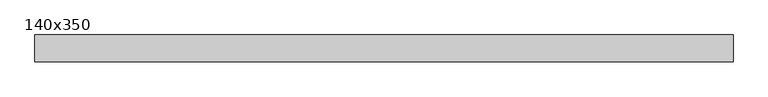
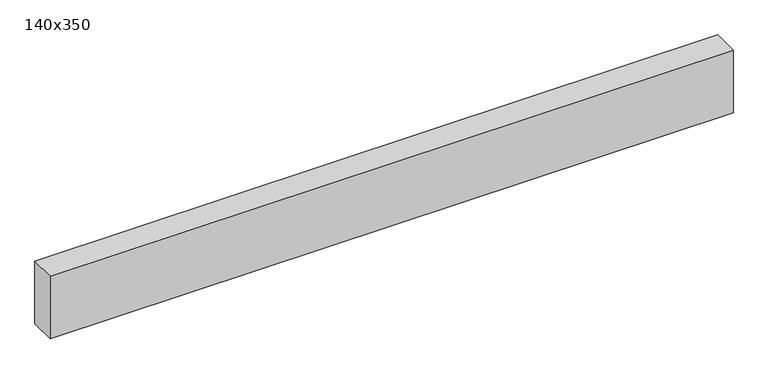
"""IFC4 building model written with IfcOpenShell, lengths in millimetres: beam geometry, Bjelke Limtre Stiplet : 140x350."""

import ifcopenshell
import ifcopenshell.guid

model = None  # the IFC model being written
_history = None  # IfcOwnerHistory: only IFC2X3 demands one
_inside = {}  # id of a spatial element -> (the spatial element, [elements in it])
_under = {}  # id of a project, library or spatial element -> (it, [spatial elements below it])
_declared = {}  # id of a project -> (the project, [libraries it declares])
_typed = {}  # id of a type object -> (the type object, [elements of that type])
_made_of = {}  # id of a material, layer set ... -> (it, [elements and type objects made of it])


def new_model(schema):
    """Start an empty IFC model of exactly this schema.

    Asked for "IFC4X3", IfcOpenShell would pick the latest addendum, in which some entities
    have other attributes; the version numbers below select the first issue.
    IFC2X3 requires an IfcOwnerHistory on every rooted entity: one is made here for all.
    """
    global model, _history
    if schema == "IFC4X3":
        model = ifcopenshell.file(schema_version=(4, 3, 0, 0))
    else:
        model = ifcopenshell.file(schema=schema)
    _inside.clear()
    _under.clear()
    _declared.clear()
    _typed.clear()
    _made_of.clear()
    _history = None
    if model.schema == "IFC2X3":
        org = make("IfcOrganization", Name="unknown")
        user = make(
            "IfcPersonAndOrganization",
            ThePerson=make("IfcPerson", FamilyName="unknown"),
            TheOrganization=org,
        )
        app = make(
            "IfcApplication",
            ApplicationDeveloper=org,
            Version="unknown",
            ApplicationFullName="unknown",
            ApplicationIdentifier="unknown",
        )
        _history = make(
            "IfcOwnerHistory",
            OwningUser=user,
            OwningApplication=app,
            ChangeAction="ADDED",
            CreationDate=0,
        )
    return model


def make(cls, **values):
    """One entity of the class cls with the attributes given. An attribute that is None is left unset."""
    return model.create_entity(
        cls, **{name: value for name, value in values.items() if value is not None}
    )


def rooted(cls, **values):
    """An entity with a GlobalId (a new one), such as an element, a storey or a relation."""
    return make(cls, GlobalId=ifcopenshell.guid.new(), OwnerHistory=_history, **values)


def si_unit(unit_type, name, prefix=None):
    """IfcSIUnit, for example si_unit("LENGTHUNIT", "METRE", prefix="MILLI")."""
    return make("IfcSIUnit", UnitType=unit_type, Prefix=prefix, Name=name)


def assignment(units):
    """IfcUnitAssignment: the units of a project."""
    return None if units is None else make("IfcUnitAssignment", Units=units)


def point(xyz):
    """IfcCartesianPoint."""
    return None if xyz is None else make("IfcCartesianPoint", Coordinates=xyz)


def direction(xyz):
    """IfcDirection."""
    return None if xyz is None else make("IfcDirection", DirectionRatios=xyz)


def frame(location, z_axis=None, x_axis=None):
    """IfcAxis2Placement3D, a coordinate frame: its origin and axes. An axis left out is left unset."""
    return make(
        "IfcAxis2Placement3D",
        Location=point(location),
        Axis=direction(z_axis),
        RefDirection=direction(x_axis),
    )


def origin():
    """The frame at (0, 0, 0) with its axes left unset."""
    return frame((0.0, 0.0, 0.0))


def place(relative_to, where):
    """IfcLocalPlacement: puts the frame where relative to a parent placement (None: the world)."""
    return make(
        "IfcLocalPlacement", PlacementRelTo=relative_to, RelativePlacement=where
    )


def context(
    kind, dimensions, precision=None, world=None, true_north=None, identifier=None
):
    """IfcGeometricRepresentationContext, for example the 3D "Model" context."""
    return make(
        "IfcGeometricRepresentationContext",
        ContextIdentifier=identifier,
        ContextType=kind,
        CoordinateSpaceDimension=dimensions,
        Precision=precision,
        WorldCoordinateSystem=world,
        TrueNorth=true_north,
    )


def project(units=None, contexts=None):
    """IfcProject with its units and contexts."""
    return rooted(
        "IfcProject",
        Name="project",
        RepresentationContexts=contexts,
        UnitsInContext=assignment(units),
    )


def spatial(cls, under=None, at=None, **own):
    """A site, building, storey or space (cls), placed at a placement, below another one or the project."""
    s = rooted(cls, ObjectPlacement=at, **own)
    if under is not None:
        _under.setdefault(under.id(), (under, []))[1].append(s)
    return s


def polyline(points):
    """IfcPolyline through the points."""
    return make("IfcPolyline", Points=[point(p) for p in points])


def outline(outer, holes=None, kind="AREA"):
    """IfcArbitraryClosedProfileDef: a profile drawn as a closed curve; with holes, ...WithVoids."""
    if holes is None:
        return make("IfcArbitraryClosedProfileDef", ProfileType=kind, OuterCurve=outer)
    return make(
        "IfcArbitraryProfileDefWithVoids",
        ProfileType=kind,
        OuterCurve=outer,
        InnerCurves=holes,
    )


def extrude(swept, where, along, depth):
    """IfcExtrudedAreaSolid: the profile swept, set in the frame where, extruded along a direction by depth."""
    return make(
        "IfcExtrudedAreaSolid",
        SweptArea=swept,
        Position=where,
        ExtrudedDirection=direction(along),
        Depth=depth,
    )


def shape(context_of_items, identifier, shape_type, items):
    """IfcShapeRepresentation: the items that make up one representation, for example the "Body"."""
    return make(
        "IfcShapeRepresentation",
        ContextOfItems=context_of_items,
        RepresentationIdentifier=identifier,
        RepresentationType=shape_type,
        Items=items,
    )


def source(mapping_origin, context_of_items, identifier, shape_type, items):
    """IfcRepresentationMap: a shape defined once, which mapped items show again and again."""
    return make(
        "IfcRepresentationMap",
        MappingOrigin=mapping_origin,
        MappedRepresentation=shape(context_of_items, identifier, shape_type, items),
    )


def transform(
    local_origin,
    x_axis=None,
    y_axis=None,
    z_axis=None,
    scale=None,
    scale2=None,
    scale3=None,
    uniform=True,
):
    """IfcCartesianTransformationOperator3D, or its non-uniform kind. x_axis, y_axis, z_axis: its Axis1, 2, 3."""
    if uniform:
        return make(
            "IfcCartesianTransformationOperator3D",
            Axis1=direction(x_axis),
            Axis2=direction(y_axis),
            LocalOrigin=point(local_origin),
            Scale=scale,
            Axis3=direction(z_axis),
        )
    return make(
        "IfcCartesianTransformationOperator3DnonUniform",
        Axis1=direction(x_axis),
        Axis2=direction(y_axis),
        LocalOrigin=point(local_origin),
        Scale=scale,
        Axis3=direction(z_axis),
        Scale2=scale2,
        Scale3=scale3,
    )


def mapped(mapping_source, mapping_target):
    """IfcMappedItem: shows the shape of a source again, moved by a transform."""
    return make(
        "IfcMappedItem", MappingSource=mapping_source, MappingTarget=mapping_target
    )


def made_of(thing, what):
    """Note that an element or type object is made of a material, layer set ...; save() writes the relation."""
    if what is not None:
        _made_of.setdefault(what.id(), (what, []))[1].append(thing)
    return thing


def element(
    cls,
    number,
    at=None,
    inside=None,
    cuts=None,
    type_object=None,
    material=None,
    context=None,
    identifier="Body",
    shape_type=None,
    held_by="IfcProductDefinitionShape",
    body=None,
    shapes=None,
    **own,
):
    """One element of the class cls, such as IfcWall. Its Tag is "e" and its number.

    at: its placement. inside: the storey or other place that contains it. cuts: it is an
    opening in that element (IfcRelVoidsElement). A single representation is given by context,
    identifier, shape_type and body (its items); several are given by shapes. held_by: the class
    of the entity that holds the representations. save() writes the other relations.
    """
    e = rooted(cls, Tag="e%d" % number, ObjectPlacement=at, **own)
    if body is not None:
        shapes = [shape(context, identifier, shape_type, body)]
    if shapes is not None:
        e.Representation = make(held_by, Representations=shapes)
    if inside is not None:
        _inside.setdefault(inside.id(), (inside, []))[1].append(e)
    if cuts is not None:
        rooted(
            "IfcRelVoidsElement", RelatingBuildingElement=cuts, RelatedOpeningElement=e
        )
    if type_object is not None:
        _typed.setdefault(type_object.id(), (type_object, []))[1].append(e)
    return made_of(e, material)


def aggregate(whole, parts):
    """IfcRelAggregates: a whole, such as a stair, and the parts it consists of."""
    return rooted("IfcRelAggregates", RelatingObject=whole, RelatedObjects=parts)


def save(model, path):
    """Write the relations noted so far, then the file.

    IfcRelAggregates (storeys below a building ...), IfcRelContainedInSpatialStructure (elements
    in a storey), IfcRelDefinesByType, IfcRelAssociatesMaterial and IfcRelDeclares: one each for
    every whole, place, type object, material and project.
    """
    for whole, parts in _under.values():
        aggregate(whole, parts)
    for where, things in _inside.values():
        rooted(
            "IfcRelContainedInSpatialStructure",
            RelatedElements=things,
            RelatingStructure=where,
        )
    for kind, things in _typed.values():
        rooted("IfcRelDefinesByType", RelatedObjects=things, RelatingType=kind)
    for what, things in _made_of.values():
        rooted("IfcRelAssociatesMaterial", RelatedObjects=things, RelatingMaterial=what)
    for by, libraries in _declared.values():
        rooted("IfcRelDeclares", RelatingContext=by, RelatedDefinitions=libraries)
    model.write(path)


def beam_140x350_a71ef6f7(model_context):
    return source(origin(), model_context, "Body", "SweptSolid", [
        extrude(outline(polyline([(1807.5397537, 70.0), (1807.5397537, -70.0), (-1807.5397537, -70.0), (-1807.5397537, 70.0), (1807.5397537, 70.0)])), frame((0.0, 0.0, -301.0), z_axis=(0.0, 0.0, 1.0), x_axis=(1.0, 0.0, 0.0)), (0.0, 0.0, 1.0), 350.0),
    ])


if __name__ == "__main__":
    model = new_model("IFC4")
    model_context = context("Model", 3, world=origin())
    ifc_project = project(units=[si_unit("LENGTHUNIT", "METRE", prefix="MILLI")], contexts=[model_context])
    site = spatial("IfcSite", under=ifc_project)
    building = spatial("IfcBuilding", under=site)
    placement = place(None, origin())
    beam_140x350_shape = beam_140x350_a71ef6f7(model_context)
    element("IfcBeam", 1, ObjectType="Bjelke Limtre Stiplet : 140x350", at=placement, inside=building, context=model_context, shape_type="MappedRepresentation", body=[
        mapped(beam_140x350_shape, transform((0.0, 0.0, 0.0), x_axis=(1.0, 0.0, 0.0), y_axis=(0.0, 1.0, 0.0), z_axis=(0.0, 0.0, 1.0))),
    ])
    save(model, "model.ifc")
